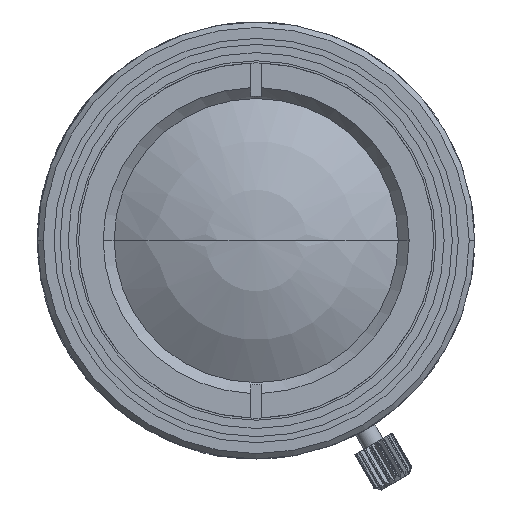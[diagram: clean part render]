
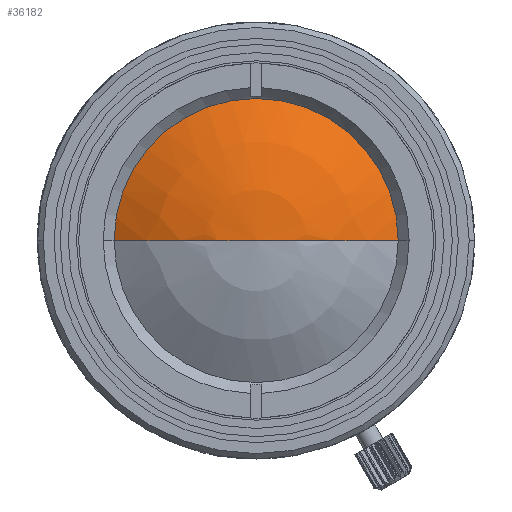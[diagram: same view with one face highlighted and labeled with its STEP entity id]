
A CAD part, left-side view. The second image highlights one B-rep face of the part: STEP entity #36182.
In plain terms, the highlighted spherical face has radius 23.263 mm.
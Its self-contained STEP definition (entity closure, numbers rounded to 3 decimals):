
#11440=CARTESIAN_POINT('',(4.114,0.,0.));
#11441=DIRECTION('',(-1.,0.,0.));
#11442=DIRECTION('',(0.,-1.,0.));
#11443=AXIS2_PLACEMENT_3D('',#11440,#11441,#11442);
#11454=CARTESIAN_POINT('',(23.263,0.,0.));
#11455=DIRECTION('',(0.,0.,-1.));
#11456=DIRECTION('',(-1.,0.,0.));
#11457=AXIS2_PLACEMENT_3D('',#11454,#11455,#11456);
#11459=CARTESIAN_POINT('',(23.263,0.,0.));
#11460=DIRECTION('',(0.,0.,1.));
#11461=DIRECTION('',(-1.,0.,0.));
#11462=AXIS2_PLACEMENT_3D('',#11459,#11460,#11461);
#22893=CARTESIAN_POINT('',(4.114,-13.21,0.));
#22894=CARTESIAN_POINT('',(4.114,13.21,0.));
#22895=VERTEX_POINT('',#22893);
#22896=VERTEX_POINT('',#22894);
#22901=CARTESIAN_POINT('',(0.,0.,0.));
#22902=VERTEX_POINT('',#22901);
#36170=CARTESIAN_POINT('',(23.263,0.,0.));
#36171=DIRECTION('',(1.,0.,0.));
#36172=DIRECTION('',(0.,-1.,0.));
#36173=AXIS2_PLACEMENT_3D('',#36170,#36171,#36172);
#36174=SPHERICAL_SURFACE('',#36173,23.263);
#36175=ORIENTED_EDGE('',*,*,#36151,.F.);
#36177=ORIENTED_EDGE('',*,*,#36176,.F.);
#36179=ORIENTED_EDGE('',*,*,#36178,.T.);
#36180=EDGE_LOOP('',(#36175,#36177,#36179));
#36181=FACE_OUTER_BOUND('',#36180,.F.);
#11444=CIRCLE('',#11443,13.21);
#11458=CIRCLE('',#11457,23.263);
#11463=CIRCLE('',#11462,23.263);
#36151=EDGE_CURVE('',#22895,#22896,#11444,.T.);
#36176=EDGE_CURVE('',#22902,#22895,#11463,.T.);
#36178=EDGE_CURVE('',#22902,#22896,#11458,.T.);
#36182=ADVANCED_FACE('',(#36181),#36174,.T.);
